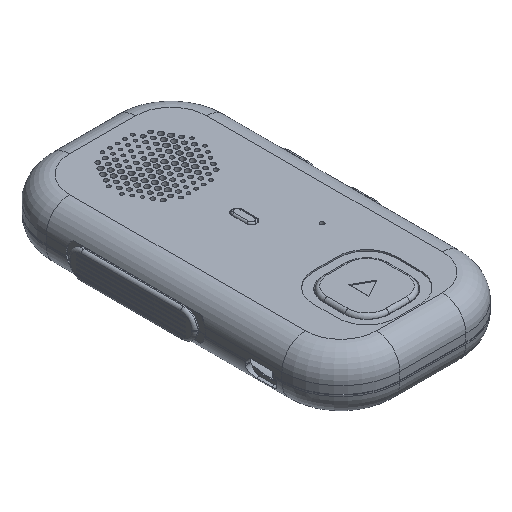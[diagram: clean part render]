
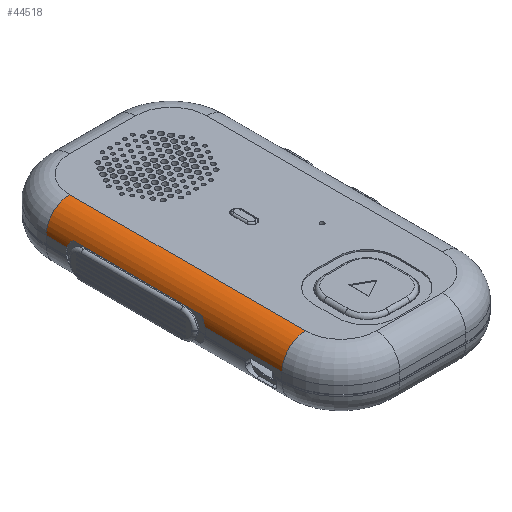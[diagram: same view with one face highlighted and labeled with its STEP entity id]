
A CAD part, isometric view. The second image highlights one B-rep face of the part: STEP entity #44518.
In plain terms, the highlighted cylindrical face has radius 10 mm (diameter 20 mm), a partial arc.
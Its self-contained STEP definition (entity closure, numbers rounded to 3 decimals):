
#539=B_SPLINE_CURVE_WITH_KNOTS('',3,(#66525,#66526,#66527,#66528,#66529,
#66530,#66531,#66532),.UNSPECIFIED.,.F.,.F.,(4,2,2,4),(2.663,
2.724,2.98,3.048),.UNSPECIFIED.);
#540=B_SPLINE_CURVE_WITH_KNOTS('',3,(#66544,#66545,#66546,#66547,#66548,
#66549,#66550,#66551),.UNSPECIFIED.,.F.,.F.,(4,2,2,4),(1.343,
1.411,1.667,1.728),.UNSPECIFIED.);
#3413=FACE_OUTER_BOUND('',#5972,.T.);
#5972=EDGE_LOOP('',(#32566,#32567,#32568,#32569,#32570,#32571,#32572,#32573));
#8799=CIRCLE('',#47682,10.);
#8800=CIRCLE('',#47683,10.);
#10993=LINE('',#66393,#15018);
#11035=LINE('',#66563,#15060);
#11036=LINE('',#66567,#15061);
#11037=LINE('',#66570,#15062);
#15018=VECTOR('',#53653,10.);
#15060=VECTOR('',#53791,10.);
#15061=VECTOR('',#53794,10.);
#15062=VECTOR('',#53797,10.);
#19256=VERTEX_POINT('',#66390);
#19257=VERTEX_POINT('',#66392);
#19299=VERTEX_POINT('',#66524);
#19302=VERTEX_POINT('',#66543);
#19305=VERTEX_POINT('',#66562);
#19306=VERTEX_POINT('',#66564);
#19307=VERTEX_POINT('',#66566);
#19308=VERTEX_POINT('',#66568);
#24252=EDGE_CURVE('',#19257,#19256,#10993,.T.);
#24313=EDGE_CURVE('',#19256,#19299,#539,.T.);
#24319=EDGE_CURVE('',#19302,#19257,#540,.T.);
#24325=EDGE_CURVE('',#19299,#19305,#11035,.T.);
#24326=EDGE_CURVE('',#19306,#19305,#8799,.T.);
#24327=EDGE_CURVE('',#19306,#19307,#11036,.T.);
#24328=EDGE_CURVE('',#19307,#19308,#8800,.T.);
#24329=EDGE_CURVE('',#19308,#19302,#11037,.T.);
#32566=ORIENTED_EDGE('',*,*,#24319,.T.);
#32567=ORIENTED_EDGE('',*,*,#24252,.T.);
#32568=ORIENTED_EDGE('',*,*,#24313,.T.);
#32569=ORIENTED_EDGE('',*,*,#24325,.T.);
#32570=ORIENTED_EDGE('',*,*,#24326,.F.);
#32571=ORIENTED_EDGE('',*,*,#24327,.T.);
#32572=ORIENTED_EDGE('',*,*,#24328,.T.);
#32573=ORIENTED_EDGE('',*,*,#24329,.T.);
#43346=CYLINDRICAL_SURFACE('',#47681,10.);
#44518=ADVANCED_FACE('',(#3413),#43346,.T.);
#47681=AXIS2_PLACEMENT_3D('',#66561,#53789,#53790);
#47682=AXIS2_PLACEMENT_3D('',#66565,#53792,#53793);
#47683=AXIS2_PLACEMENT_3D('',#66569,#53795,#53796);
#53653=DIRECTION('',(0.,-1.,0.));
#53789=DIRECTION('center_axis',(0.,1.,0.));
#53790=DIRECTION('ref_axis',(0.707,0.,-0.707));
#53791=DIRECTION('',(0.,-1.,0.));
#53792=DIRECTION('center_axis',(0.,-1.,0.));
#53793=DIRECTION('ref_axis',(0.,0.,-1.));
#53794=DIRECTION('',(0.,1.,0.));
#53795=DIRECTION('center_axis',(0.,-1.,0.));
#53796=DIRECTION('ref_axis',(0.,0.,-1.));
#53797=DIRECTION('',(0.,-1.,0.));
#66390=CARTESIAN_POINT('',(38.45,-15.116,6.729));
#66392=CARTESIAN_POINT('',(38.45,39.116,6.729));
#66393=CARTESIAN_POINT('',(38.45,-25.,6.729));
#66524=CARTESIAN_POINT('',(39.,-17.229,10.));
#66525=CARTESIAN_POINT('Ctrl Pts',(38.45,-15.116,6.729));
#66526=CARTESIAN_POINT('Ctrl Pts',(38.495,-15.27,6.86));
#66527=CARTESIAN_POINT('Ctrl Pts',(38.54,-15.416,6.997));
#66528=CARTESIAN_POINT('Ctrl Pts',(38.76,-16.14,7.735));
#66529=CARTESIAN_POINT('Ctrl Pts',(38.921,-16.653,8.493));
#66530=CARTESIAN_POINT('Ctrl Pts',(38.992,-17.084,9.545));
#66531=CARTESIAN_POINT('Ctrl Pts',(39.,-17.163,9.771));
#66532=CARTESIAN_POINT('Ctrl Pts',(39.,-17.229,10.));
#66543=CARTESIAN_POINT('',(39.,41.229,10.));
#66544=CARTESIAN_POINT('Ctrl Pts',(39.,41.229,10.));
#66545=CARTESIAN_POINT('Ctrl Pts',(39.,41.163,9.771));
#66546=CARTESIAN_POINT('Ctrl Pts',(38.992,41.084,9.545));
#66547=CARTESIAN_POINT('Ctrl Pts',(38.921,40.653,8.493));
#66548=CARTESIAN_POINT('Ctrl Pts',(38.76,40.14,7.735));
#66549=CARTESIAN_POINT('Ctrl Pts',(38.54,39.416,6.997));
#66550=CARTESIAN_POINT('Ctrl Pts',(38.495,39.27,6.86));
#66551=CARTESIAN_POINT('Ctrl Pts',(38.45,39.116,6.729));
#66561=CARTESIAN_POINT('Origin',(29.,-25.,10.));
#66562=CARTESIAN_POINT('',(39.,-50.,10.));
#66563=CARTESIAN_POINT('',(39.,-25.,10.));
#66564=CARTESIAN_POINT('',(29.,-50.,0.));
#66565=CARTESIAN_POINT('Origin',(29.,-50.,10.));
#66566=CARTESIAN_POINT('',(29.,50.,0.));
#66567=CARTESIAN_POINT('',(29.,-25.,0.));
#66568=CARTESIAN_POINT('',(39.,50.,10.));
#66569=CARTESIAN_POINT('Origin',(29.,50.,10.));
#66570=CARTESIAN_POINT('',(39.,-25.,10.));
